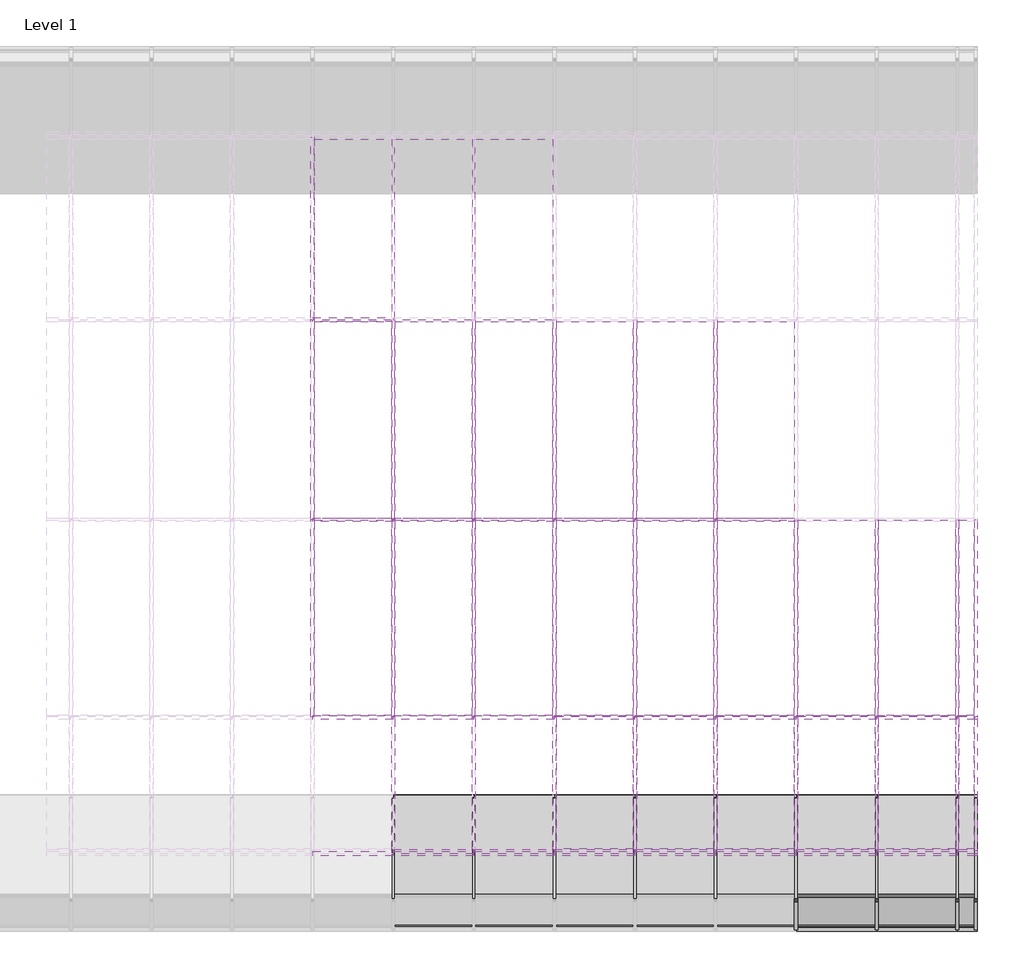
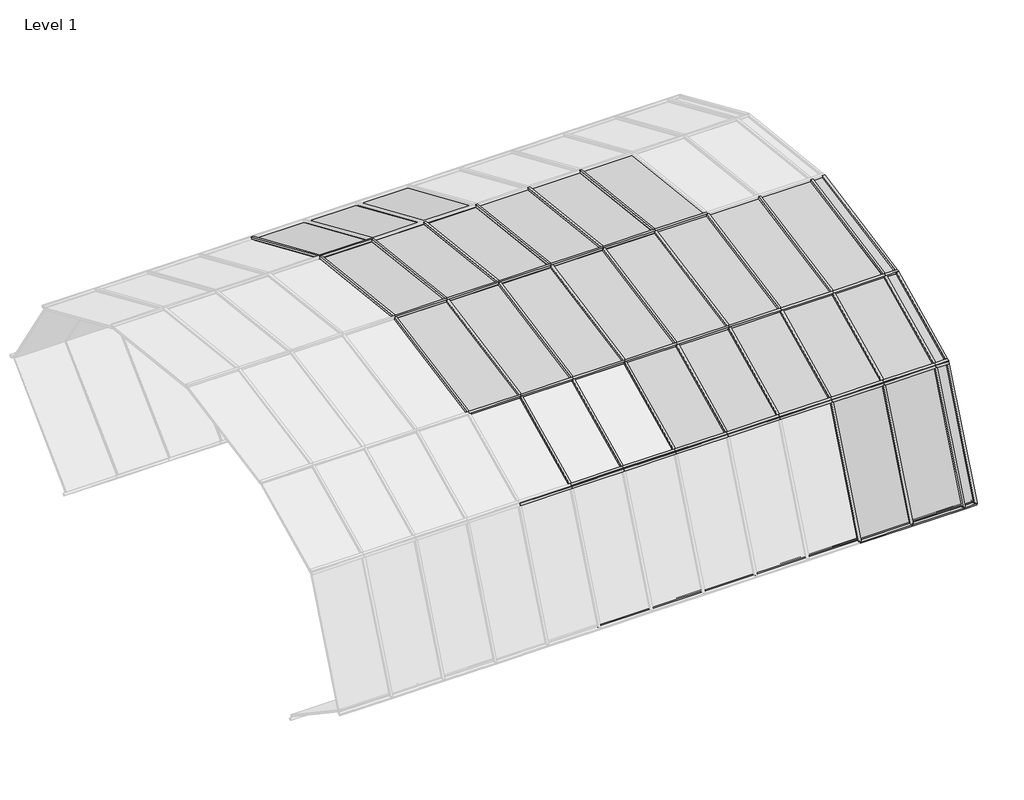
# One storey, part 21 of 23: 83 members, 35 plates.
"""IFC4 building model written with IfcOpenShell, lengths in millimetres."""

from ifc_helpers import new_model, si_unit, origin, place, context, project, spatial, transform, mapped, element, save
from components import member_68981e21, member_e752087b, member_3e1f1dd8, member_fea202f7, member_0f8f75f6, member_42213d33, member_1ddaab60, member_88d46f17, member_14e241b9, member_67cfadff, member_309acb9e, member_1d69e541, member_934386c6, system_panel_glazed_51f493bd, system_panel_glazed_6e806f8e, system_panel_glazed_a1f64e1d, system_panel_glazed_8cafdc8f, system_panel_glazed_3c61d676, system_panel_glazed_a617cdeb, system_panel_glazed_3957fabc, system_panel_glazed_e36701dd

model = new_model("IFC4")

# Units and contexts
model_context = context("Model", 3, world=origin())
ifc_project = project(units=[si_unit("LENGTHUNIT", "METRE", prefix="MILLI")], contexts=[model_context])

# Site, building, storey
site = spatial("IfcSite", under=ifc_project)
building = spatial("IfcBuilding", under=site)
storey = spatial("IfcBuildingStorey", under=building, Name="Level 1", Elevation=0.0)

# Members
placement = place(None, origin())
member_shape = member_68981e21(model_context)
element("IfcMember", 1, ObjectType="Rectangular Mullion : 1\" Square", at=placement, inside=storey, context=model_context, shape_type="MappedRepresentation", body=[
    mapped(member_shape, transform((1059.8500186, 2539.8807303, 0.0), x_axis=(0.0, 0.8307182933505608, -0.5566930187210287), y_axis=(0.0, -0.5566930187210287, -0.8307182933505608), z_axis=(-1.0, 0.0, 0.0))),
])
element("IfcMember", 2, ObjectType="Rectangular Mullion : 1\" Square", at=placement, inside=storey, context=model_context, shape_type="MappedRepresentation", body=[
    mapped(member_shape, transform((1669.4500186, 2539.8807303, 0.0), x_axis=(0.0, 0.8307182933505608, -0.5566930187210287), y_axis=(0.0, -0.5566930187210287, -0.8307182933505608), z_axis=(-1.0, 0.0, 0.0))),
])
element("IfcMember", 3, ObjectType="Rectangular Mullion : 1\" Square", at=placement, inside=storey, context=model_context, shape_type="MappedRepresentation", body=[
    mapped(member_shape, transform((2279.0500186, 2539.8807303, 0.0), x_axis=(0.0, 0.8307182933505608, -0.5566930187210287), y_axis=(0.0, -0.5566930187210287, -0.8307182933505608), z_axis=(-1.0, 0.0, 0.0))),
])
element("IfcMember", 4, ObjectType="Rectangular Mullion : 1\" Square", at=placement, inside=storey, context=model_context, shape_type="MappedRepresentation", body=[
    mapped(member_shape, transform((2888.6500186, 2539.8807303, 0.0), x_axis=(0.0, 0.8307182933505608, -0.5566930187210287), y_axis=(0.0, -0.5566930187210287, -0.8307182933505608), z_axis=(-1.0, 0.0, 0.0))),
])
element("IfcMember", 5, ObjectType="Rectangular Mullion : 1\" Square", at=placement, inside=storey, context=model_context, shape_type="MappedRepresentation", body=[
    mapped(member_shape, transform((3498.2500186, 2539.8807303, 0.0), x_axis=(0.0, 0.8307182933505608, -0.5566930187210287), y_axis=(0.0, -0.5566930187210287, -0.8307182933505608), z_axis=(-1.0, 0.0, 0.0))),
])
element("IfcMember", 6, ObjectType="Rectangular Mullion : 1\" Square", at=placement, inside=storey, context=model_context, shape_type="MappedRepresentation", body=[
    mapped(member_shape, transform((4107.8500186, 2539.8807303, 0.0), x_axis=(0.0, 0.8307182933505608, -0.5566930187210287), y_axis=(0.0, -0.5566930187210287, -0.8307182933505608), z_axis=(-1.0, 0.0, 0.0))),
])
element("IfcMember", 7, ObjectType="Rectangular Mullion : 1\" Square", at=placement, inside=storey, context=model_context, shape_type="MappedRepresentation", body=[
    mapped(member_shape, transform((4717.4500186, 2539.8807303, 0.0), x_axis=(0.0, 0.8307182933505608, -0.5566930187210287), y_axis=(0.0, -0.5566930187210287, -0.8307182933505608), z_axis=(-1.0, 0.0, 0.0))),
])
element("IfcMember", 8, ObjectType="Rectangular Mullion : 1\" Square", at=placement, inside=storey, context=model_context, shape_type="MappedRepresentation", body=[
    mapped(member_shape, transform((1059.8500186, 2108.5088854, 2085.6089632), x_axis=(0.0, -0.9009025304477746, -0.4340214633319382), y_axis=(0.0, -0.4340214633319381, 0.9009025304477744), z_axis=(-1.0, 0.0, 0.0))),
])
element("IfcMember", 9, ObjectType="Rectangular Mullion : 1\" Square", at=placement, inside=storey, context=model_context, shape_type="MappedRepresentation", body=[
    mapped(member_shape, transform((1669.4500186, 2108.5088854, 2085.6089632), x_axis=(0.0, -0.9009025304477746, -0.4340214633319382), y_axis=(0.0, -0.4340214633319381, 0.9009025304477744), z_axis=(-1.0, 0.0, 0.0))),
])
element("IfcMember", 10, ObjectType="Rectangular Mullion : 1\" Square", at=placement, inside=storey, context=model_context, shape_type="MappedRepresentation", body=[
    mapped(member_shape, transform((2279.0500186, 2108.5088854, 2085.6089632), x_axis=(0.0, -0.9009025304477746, -0.4340214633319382), y_axis=(0.0, -0.4340214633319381, 0.9009025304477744), z_axis=(-1.0, 0.0, 0.0))),
])
element("IfcMember", 11, ObjectType="Rectangular Mullion : 1\" Square", at=placement, inside=storey, context=model_context, shape_type="MappedRepresentation", body=[
    mapped(member_shape, transform((2888.6500186, 2108.5088854, 2085.6089632), x_axis=(0.0, -0.9009025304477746, -0.4340214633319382), y_axis=(0.0, -0.4340214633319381, 0.9009025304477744), z_axis=(-1.0, 0.0, 0.0))),
])
element("IfcMember", 12, ObjectType="Rectangular Mullion : 1\" Square", at=placement, inside=storey, context=model_context, shape_type="MappedRepresentation", body=[
    mapped(member_shape, transform((3498.2500186, 2108.5088854, 2085.6089632), x_axis=(0.0, -0.9009025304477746, -0.4340214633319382), y_axis=(0.0, -0.4340214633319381, 0.9009025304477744), z_axis=(-1.0, 0.0, 0.0))),
])
element("IfcMember", 13, ObjectType="Rectangular Mullion : 1\" Square", at=placement, inside=storey, context=model_context, shape_type="MappedRepresentation", body=[
    mapped(member_shape, transform((4107.8500186, 2108.5088854, 2085.6089632), x_axis=(0.0, -0.9009025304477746, -0.4340214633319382), y_axis=(0.0, -0.4340214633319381, 0.9009025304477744), z_axis=(-1.0, 0.0, 0.0))),
])
element("IfcMember", 14, ObjectType="Rectangular Mullion : 1\" Square", at=placement, inside=storey, context=model_context, shape_type="MappedRepresentation", body=[
    mapped(member_shape, transform((4717.4500186, 2108.5088854, 2085.6089632), x_axis=(0.0, -0.9009025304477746, -0.4340214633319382), y_axis=(0.0, -0.4340214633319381, 0.9009025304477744), z_axis=(-1.0, 0.0, 0.0))),
])
member_2_shape = member_e752087b(model_context)
element("IfcMember", 15, ObjectType="Rectangular Mullion : 1\" Square", at=placement, inside=storey, context=model_context, shape_type="MappedRepresentation", body=[
    mapped(member_2_shape, transform((5327.0500186, 2539.8807303, 0.0), x_axis=(0.0, 0.8307182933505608, -0.5566930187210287), y_axis=(0.0, -0.5566930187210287, -0.8307182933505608), z_axis=(-1.0, 0.0, 0.0))),
])
element("IfcMember", 16, ObjectType="Rectangular Mullion : 1\" Square", at=placement, inside=storey, context=model_context, shape_type="MappedRepresentation", body=[
    mapped(member_2_shape, transform((5327.0500186, 2108.5088854, 2085.6089632), x_axis=(0.0, -0.9009025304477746, -0.4340214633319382), y_axis=(0.0, -0.4340214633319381, 0.9009025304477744), z_axis=(-1.0, 0.0, 0.0))),
])
member_3_shape = member_3e1f1dd8(model_context)
element("IfcMember", 17, ObjectType="Rectangular Mullion : 1\" Square", at=placement, inside=storey, context=model_context, shape_type="MappedRepresentation", body=[
    mapped(member_3_shape, transform((4107.8500186, 1534.1192339, 673.9955146), x_axis=(0.0, 0.38018576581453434, -0.9249101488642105), y_axis=(0.0, -0.9249101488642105, -0.38018576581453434), z_axis=(-1.0, 0.0, 0.0))),
])
element("IfcMember", 18, ObjectType="Rectangular Mullion : 1\" Square", at=placement, inside=storey, context=model_context, shape_type="MappedRepresentation", body=[
    mapped(member_3_shape, transform((4717.4500186, 1534.1192339, 673.9955146), x_axis=(0.0, 0.38018576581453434, -0.9249101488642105), y_axis=(0.0, -0.9249101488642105, -0.38018576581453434), z_axis=(-1.0, 0.0, 0.0))),
])
element("IfcMember", 19, ObjectType="Rectangular Mullion : 1\" Square", at=placement, inside=storey, context=model_context, shape_type="MappedRepresentation", body=[
    mapped(member_3_shape, transform((450.2500186, 4631.6132499, 2864.1651971), x_axis=(0.0, -0.9992773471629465, -0.038010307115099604), y_axis=(0.0, -0.038010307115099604, 0.9992773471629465), z_axis=(-1.0, 0.0, 0.0))),
])
element("IfcMember", 20, ObjectType="Rectangular Mullion : 1\" Square", at=placement, inside=storey, context=model_context, shape_type="MappedRepresentation", body=[
    mapped(member_3_shape, transform((1059.8500186, 4631.6132499, 2864.1651971), x_axis=(0.0, -0.9992773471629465, -0.038010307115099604), y_axis=(0.0, -0.038010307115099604, 0.9992773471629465), z_axis=(-1.0, 0.0, 0.0))),
])
element("IfcMember", 21, ObjectType="Rectangular Mullion : 1\" Square", at=placement, inside=storey, context=model_context, shape_type="MappedRepresentation", body=[
    mapped(member_3_shape, transform((1669.4500186, 4631.6132499, 2864.1651971), x_axis=(0.0, -0.9992773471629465, -0.038010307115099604), y_axis=(0.0, -0.038010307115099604, 0.9992773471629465), z_axis=(-1.0, 0.0, 0.0))),
])
element("IfcMember", 22, ObjectType="Rectangular Mullion : 1\" Square", at=placement, inside=storey, context=model_context, shape_type="MappedRepresentation", body=[
    mapped(member_3_shape, transform((2279.0500186, 4631.6132499, 2864.1651971), x_axis=(0.0, -0.9992773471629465, -0.038010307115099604), y_axis=(0.0, -0.038010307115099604, 0.9992773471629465), z_axis=(-1.0, 0.0, 0.0))),
])
element("IfcMember", 23, ObjectType="Rectangular Mullion : 1\" Square", at=placement, inside=storey, context=model_context, shape_type="MappedRepresentation", body=[
    mapped(member_3_shape, transform((2888.6500186, 4631.6132499, 2864.1651971), x_axis=(0.0, -0.9992773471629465, -0.038010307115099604), y_axis=(0.0, -0.038010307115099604, 0.9992773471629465), z_axis=(-1.0, 0.0, 0.0))),
])
element("IfcMember", 24, ObjectType="Rectangular Mullion : 1\" Square", at=placement, inside=storey, context=model_context, shape_type="MappedRepresentation", body=[
    mapped(member_3_shape, transform((3498.2500186, 4631.6132499, 2864.1651971), x_axis=(0.0, -0.9992773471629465, -0.038010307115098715), y_axis=(0.0, -0.038010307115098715, 0.9992773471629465), z_axis=(-1.0, 0.0, 0.0))),
])
element("IfcMember", 25, ObjectType="Rectangular Mullion : 1\" Square", at=placement, inside=storey, context=model_context, shape_type="MappedRepresentation", body=[
    mapped(member_3_shape, transform((450.2500186, 3134.3722562, 2579.8319299), x_axis=(0.0, -0.9436447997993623, -0.3309599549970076), y_axis=(0.0, -0.3309599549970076, 0.9436447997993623), z_axis=(-1.0, 0.0, 0.0))),
])
element("IfcMember", 26, ObjectType="Rectangular Mullion : 1\" Square", at=placement, inside=storey, context=model_context, shape_type="MappedRepresentation", body=[
    mapped(member_3_shape, transform((1059.8500186, 3134.3722562, 2579.8319299), x_axis=(0.0, -0.9436447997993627, -0.33095995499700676), y_axis=(0.0, -0.33095995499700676, 0.9436447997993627), z_axis=(-1.0, 0.0, 0.0))),
])
element("IfcMember", 27, ObjectType="Rectangular Mullion : 1\" Square", at=placement, inside=storey, context=model_context, shape_type="MappedRepresentation", body=[
    mapped(member_3_shape, transform((1669.4500186, 3134.3722562, 2579.8319299), x_axis=(0.0, -0.9436447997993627, -0.33095995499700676), y_axis=(0.0, -0.33095995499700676, 0.9436447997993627), z_axis=(-1.0, 0.0, 0.0))),
])
element("IfcMember", 28, ObjectType="Rectangular Mullion : 1\" Square", at=placement, inside=storey, context=model_context, shape_type="MappedRepresentation", body=[
    mapped(member_3_shape, transform((2279.0500186, 3134.3722562, 2579.8319299), x_axis=(0.0, -0.9436447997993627, -0.33095995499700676), y_axis=(0.0, -0.33095995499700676, 0.9436447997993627), z_axis=(-1.0, 0.0, 0.0))),
])
element("IfcMember", 29, ObjectType="Rectangular Mullion : 1\" Square", at=placement, inside=storey, context=model_context, shape_type="MappedRepresentation", body=[
    mapped(member_3_shape, transform((2888.6500186, 3134.3722562, 2579.8319299), x_axis=(0.0, -0.9436447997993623, -0.3309599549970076), y_axis=(0.0, -0.3309599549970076, 0.9436447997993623), z_axis=(-1.0, 0.0, 0.0))),
])
element("IfcMember", 30, ObjectType="Rectangular Mullion : 1\" Square", at=placement, inside=storey, context=model_context, shape_type="MappedRepresentation", body=[
    mapped(member_3_shape, transform((3498.2500186, 3134.3722562, 2579.8319299), x_axis=(0.0, -0.9436447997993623, -0.3309599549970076), y_axis=(0.0, -0.3309599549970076, 0.9436447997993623), z_axis=(-1.0, 0.0, 0.0))),
])
element("IfcMember", 31, ObjectType="Rectangular Mullion : 1\" Square", at=placement, inside=storey, context=model_context, shape_type="MappedRepresentation", body=[
    mapped(member_3_shape, transform((4107.8500186, 3134.3722562, 2579.8319299), x_axis=(0.0, -0.9436447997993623, -0.3309599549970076), y_axis=(0.0, -0.3309599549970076, 0.9436447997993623), z_axis=(-1.0, 0.0, 0.0))),
])
element("IfcMember", 32, ObjectType="Rectangular Mullion : 1\" Square", at=placement, inside=storey, context=model_context, shape_type="MappedRepresentation", body=[
    mapped(member_3_shape, transform((4717.4500186, 3134.3722562, 2579.8319299), x_axis=(0.0, -0.9436447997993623, -0.3309599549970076), y_axis=(0.0, -0.3309599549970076, 0.9436447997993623), z_axis=(-1.0, 0.0, 0.0))),
])
member_4_shape = member_fea202f7(model_context)
element("IfcMember", 33, ObjectType="Rectangular Mullion : 1\" Square", at=placement, inside=storey, context=model_context, shape_type="MappedRepresentation", body=[
    mapped(member_4_shape, transform((5327.0500186, 1534.1192339, 673.9955146), x_axis=(0.0, 0.38018576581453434, -0.9249101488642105), y_axis=(0.0, -0.9249101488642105, -0.38018576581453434), z_axis=(-1.0, 0.0, 0.0))),
])
element("IfcMember", 34, ObjectType="Rectangular Mullion : 1\" Square", at=placement, inside=storey, context=model_context, shape_type="MappedRepresentation", body=[
    mapped(member_4_shape, transform((5327.0500186, 3134.3722562, 2579.8319299), x_axis=(0.0, -0.9436447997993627, -0.33095995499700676), y_axis=(0.0, -0.33095995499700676, 0.9436447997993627), z_axis=(-1.0, 0.0, 0.0))),
])
element("IfcMember", 35, ObjectType="Rectangular Mullion : 1\" Square", at=placement, inside=storey, context=model_context, shape_type="MappedRepresentation", body=[
    mapped(member_2_shape, transform((5479.4500186, 2108.5088854, 2085.6089632), x_axis=(0.0, 0.37689609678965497, 0.9262555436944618), y_axis=(0.0, -0.9262555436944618, 0.37689609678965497), z_axis=(1.0, 0.0, 0.0))),
])
element("IfcMember", 36, ObjectType="Rectangular Mullion : 1\" Square", at=placement, inside=storey, context=model_context, shape_type="MappedRepresentation", body=[
    mapped(member_shape, transform((1059.8500186, 2108.5088854, 2085.6089632), x_axis=(0.0, 0.37689609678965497, 0.9262555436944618), y_axis=(0.0, -0.9262555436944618, 0.37689609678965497), z_axis=(1.0, 0.0, 0.0))),
])
element("IfcMember", 37, ObjectType="Rectangular Mullion : 1\" Square", at=placement, inside=storey, context=model_context, shape_type="MappedRepresentation", body=[
    mapped(member_shape, transform((1669.4500186, 2108.5088854, 2085.6089632), x_axis=(0.0, 0.37689609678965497, 0.9262555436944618), y_axis=(0.0, -0.9262555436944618, 0.37689609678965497), z_axis=(1.0, 0.0, 0.0))),
])
element("IfcMember", 38, ObjectType="Rectangular Mullion : 1\" Square", at=placement, inside=storey, context=model_context, shape_type="MappedRepresentation", body=[
    mapped(member_shape, transform((2279.0500186, 2108.5088854, 2085.6089632), x_axis=(0.0, 0.37689609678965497, 0.9262555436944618), y_axis=(0.0, -0.9262555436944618, 0.37689609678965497), z_axis=(1.0, 0.0, 0.0))),
])
element("IfcMember", 39, ObjectType="Rectangular Mullion : 1\" Square", at=placement, inside=storey, context=model_context, shape_type="MappedRepresentation", body=[
    mapped(member_shape, transform((2888.6500186, 2108.5088854, 2085.6089632), x_axis=(0.0, 0.37689609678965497, 0.9262555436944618), y_axis=(0.0, -0.9262555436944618, 0.37689609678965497), z_axis=(1.0, 0.0, 0.0))),
])
element("IfcMember", 40, ObjectType="Rectangular Mullion : 1\" Square", at=placement, inside=storey, context=model_context, shape_type="MappedRepresentation", body=[
    mapped(member_shape, transform((3498.2500186, 2108.5088854, 2085.6089632), x_axis=(0.0, 0.37689609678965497, 0.9262555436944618), y_axis=(0.0, -0.9262555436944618, 0.37689609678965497), z_axis=(1.0, 0.0, 0.0))),
])
element("IfcMember", 41, ObjectType="Rectangular Mullion : 1\" Square", at=placement, inside=storey, context=model_context, shape_type="MappedRepresentation", body=[
    mapped(member_shape, transform((4107.8500186, 2108.5088854, 2085.6089632), x_axis=(0.0, 0.37689609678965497, 0.9262555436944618), y_axis=(0.0, -0.9262555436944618, 0.37689609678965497), z_axis=(1.0, 0.0, 0.0))),
])
element("IfcMember", 42, ObjectType="Rectangular Mullion : 1\" Square", at=placement, inside=storey, context=model_context, shape_type="MappedRepresentation", body=[
    mapped(member_shape, transform((4717.4500186, 2108.5088854, 2085.6089632), x_axis=(0.0, 0.37689609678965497, 0.9262555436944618), y_axis=(0.0, -0.9262555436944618, 0.37689609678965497), z_axis=(1.0, 0.0, 0.0))),
])
element("IfcMember", 43, ObjectType="Rectangular Mullion : 1\" Square", at=placement, inside=storey, context=model_context, shape_type="MappedRepresentation", body=[
    mapped(member_shape, transform((5327.0500186, 2108.5088854, 2085.6089632), x_axis=(0.0, 0.37689609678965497, 0.9262555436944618), y_axis=(0.0, -0.9262555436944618, 0.37689609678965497), z_axis=(1.0, 0.0, 0.0))),
])
element("IfcMember", 44, ObjectType="Rectangular Mullion : 1\" Square", at=placement, inside=storey, context=model_context, shape_type="MappedRepresentation", body=[
    mapped(member_3_shape, transform((450.2500186, 6146.1274349, 2694.3924567), x_axis=(0.0, -0.9660596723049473, 0.25831900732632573), y_axis=(0.0, 0.2583190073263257, 0.966059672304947), z_axis=(-1.0, 0.0, 0.0))),
])
member_5_shape = member_0f8f75f6(model_context)
element("IfcMember", 45, ObjectType="Rectangular Mullion : 1\" Square", at=placement, inside=storey, context=model_context, shape_type="MappedRepresentation", body=[
    mapped(member_5_shape, transform((1059.8500186, 2518.7804857, 14.1400027), x_axis=(1.0, 0.0, 0.0), y_axis=(0.0, -0.5566930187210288, -0.8307182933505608), z_axis=(0.0, 0.8307182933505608, -0.5566930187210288))),
])
element("IfcMember", 46, ObjectType="Rectangular Mullion : 1\" Square", at=placement, inside=storey, context=model_context, shape_type="MappedRepresentation", body=[
    mapped(member_5_shape, transform((1669.4500186, 2518.7804857, 14.1400027), x_axis=(1.0, 0.0, 0.0), y_axis=(0.0, -0.5566930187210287, -0.8307182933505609), z_axis=(0.0, 0.8307182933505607, -0.5566930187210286))),
])
element("IfcMember", 47, ObjectType="Rectangular Mullion : 1\" Square", at=placement, inside=storey, context=model_context, shape_type="MappedRepresentation", body=[
    mapped(member_5_shape, transform((2279.0500186, 2518.7804857, 14.1400027), x_axis=(1.0, 0.0, 0.0), y_axis=(0.0, -0.5566930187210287, -0.8307182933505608), z_axis=(0.0, 0.8307182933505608, -0.5566930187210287))),
])
element("IfcMember", 48, ObjectType="Rectangular Mullion : 1\" Square", at=placement, inside=storey, context=model_context, shape_type="MappedRepresentation", body=[
    mapped(member_5_shape, transform((2888.6500186, 2518.7804857, 14.1400027), x_axis=(1.0, 0.0, 0.0), y_axis=(0.0, -0.5566930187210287, -0.8307182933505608), z_axis=(0.0, 0.8307182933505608, -0.5566930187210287))),
])
element("IfcMember", 49, ObjectType="Rectangular Mullion : 1\" Square", at=placement, inside=storey, context=model_context, shape_type="MappedRepresentation", body=[
    mapped(member_5_shape, transform((3498.2500186, 2518.7804857, 14.1400027), x_axis=(1.0, 0.0, 0.0), y_axis=(0.0, -0.5566930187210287, -0.8307182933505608), z_axis=(0.0, 0.8307182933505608, -0.5566930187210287))),
])
element("IfcMember", 50, ObjectType="Rectangular Mullion : 1\" Square", at=placement, inside=storey, context=model_context, shape_type="MappedRepresentation", body=[
    mapped(member_5_shape, transform((4107.8500186, 2518.7804857, 14.1400027), x_axis=(1.0, 0.0, 0.0), y_axis=(0.0, -0.5566930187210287, -0.8307182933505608), z_axis=(0.0, 0.8307182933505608, -0.5566930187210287))),
])
element("IfcMember", 51, ObjectType="Rectangular Mullion : 1\" Square", at=placement, inside=storey, context=model_context, shape_type="MappedRepresentation", body=[
    mapped(member_5_shape, transform((4717.4500186, 2518.7804857, 14.1400027), x_axis=(1.0, 0.0, 0.0), y_axis=(0.0, -0.5566930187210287, -0.8307182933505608), z_axis=(0.0, 0.8307182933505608, -0.5566930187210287))),
])
member_6_shape = member_42213d33(model_context)
element("IfcMember", 52, ObjectType="Rectangular Mullion : 1\" Square", at=placement, inside=storey, context=model_context, shape_type="MappedRepresentation", body=[
    mapped(member_6_shape, transform((4107.8500186, 1538.9058143, 685.75896), x_axis=(1.0, 0.0, 0.0), y_axis=(0.0, -0.9262555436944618, 0.37689609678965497), z_axis=(0.0, -0.37689609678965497, -0.9262555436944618))),
])
element("IfcMember", 53, ObjectType="Rectangular Mullion : 1\" Square", at=placement, inside=storey, context=model_context, shape_type="MappedRepresentation", body=[
    mapped(member_6_shape, transform((4717.4500186, 1538.9058143, 685.75896), x_axis=(1.0, 0.0, 0.0), y_axis=(0.0, -0.9262555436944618, 0.37689609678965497), z_axis=(0.0, -0.37689609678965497, -0.9262555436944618))),
])
member_7_shape = member_1ddaab60(model_context)
element("IfcMember", 54, ObjectType="Rectangular Mullion : 1\" Square", at=placement, inside=storey, context=model_context, shape_type="MappedRepresentation", body=[
    mapped(member_7_shape, transform((5479.4500186, 2518.7804857, 14.1400027), x_axis=(1.0, 0.0, 0.0), y_axis=(0.0, -0.5566930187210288, -0.8307182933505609), z_axis=(0.0, 0.8307182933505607, -0.5566930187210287))),
])
element("IfcMember", 55, ObjectType="Rectangular Mullion : 1\" Square", at=placement, inside=storey, context=model_context, shape_type="MappedRepresentation", body=[
    mapped(member_6_shape, transform((5327.0500186, 1538.9058143, 685.75896), x_axis=(1.0, 0.0, 0.0), y_axis=(0.0, -0.9262555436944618, 0.37689609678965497), z_axis=(0.0, -0.37689609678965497, -0.9262555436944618))),
])
element("IfcMember", 56, ObjectType="Rectangular Mullion : 1\" Square", at=placement, inside=storey, context=model_context, shape_type="MappedRepresentation", body=[
    mapped(member_5_shape, transform((5327.0500186, 2518.7804857, 14.1400027), x_axis=(1.0, 0.0, 0.0), y_axis=(0.0, -0.5566930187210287, -0.8307182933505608), z_axis=(0.0, 0.8307182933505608, -0.5566930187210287))),
])
member_8_shape = member_88d46f17(model_context)
element("IfcMember", 57, ObjectType="Rectangular Mullion : 1\" Square", at=placement, inside=storey, context=model_context, shape_type="MappedRepresentation", body=[
    mapped(member_8_shape, transform((5479.4500186, 1538.9058143, 685.75896), x_axis=(1.0, 0.0, 0.0), y_axis=(0.0, -0.9262555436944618, 0.37689609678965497), z_axis=(0.0, -0.37689609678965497, -0.9262555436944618))),
])
member_9_shape = member_14e241b9(model_context)
element("IfcMember", 58, ObjectType="Rectangular Mullion : 1\" Square", at=placement, inside=storey, context=model_context, shape_type="MappedRepresentation", body=[
    mapped(member_9_shape, transform((1059.8500186, 2131.3918096, 2096.6331083), x_axis=(1.0, 0.0, 0.0), y_axis=(0.0, -0.43402146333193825, 0.9009025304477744), z_axis=(0.0, -0.9009025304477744, -0.43402146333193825))),
])
element("IfcMember", 59, ObjectType="Rectangular Mullion : 1\" Square", at=placement, inside=storey, context=model_context, shape_type="MappedRepresentation", body=[
    mapped(member_9_shape, transform((1669.4500186, 2131.3918096, 2096.6331083), x_axis=(1.0, 0.0, 0.0), y_axis=(0.0, -0.43402146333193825, 0.9009025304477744), z_axis=(0.0, -0.9009025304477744, -0.43402146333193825))),
])
element("IfcMember", 60, ObjectType="Rectangular Mullion : 1\" Square", at=placement, inside=storey, context=model_context, shape_type="MappedRepresentation", body=[
    mapped(member_9_shape, transform((2279.0500186, 2131.3918096, 2096.6331083), x_axis=(1.0, 0.0, 0.0), y_axis=(0.0, -0.43402146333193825, 0.9009025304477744), z_axis=(0.0, -0.9009025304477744, -0.43402146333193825))),
])
element("IfcMember", 61, ObjectType="Rectangular Mullion : 1\" Square", at=placement, inside=storey, context=model_context, shape_type="MappedRepresentation", body=[
    mapped(member_9_shape, transform((2888.6500186, 2131.3918096, 2096.6331083), x_axis=(1.0, 0.0, 0.0), y_axis=(0.0, -0.4340214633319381, 0.9009025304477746), z_axis=(0.0, -0.9009025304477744, -0.434021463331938))),
])
element("IfcMember", 62, ObjectType="Rectangular Mullion : 1\" Square", at=placement, inside=storey, context=model_context, shape_type="MappedRepresentation", body=[
    mapped(member_9_shape, transform((3498.2500186, 2131.3918096, 2096.6331083), x_axis=(1.0, 0.0, 0.0), y_axis=(0.0, -0.4340214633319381, 0.9009025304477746), z_axis=(0.0, -0.9009025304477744, -0.434021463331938))),
])
element("IfcMember", 63, ObjectType="Rectangular Mullion : 1\" Square", at=placement, inside=storey, context=model_context, shape_type="MappedRepresentation", body=[
    mapped(member_9_shape, transform((4107.8500186, 2131.3918096, 2096.6331083), x_axis=(1.0, 0.0, 0.0), y_axis=(0.0, -0.4340214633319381, 0.9009025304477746), z_axis=(0.0, -0.9009025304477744, -0.434021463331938))),
])
element("IfcMember", 64, ObjectType="Rectangular Mullion : 1\" Square", at=placement, inside=storey, context=model_context, shape_type="MappedRepresentation", body=[
    mapped(member_9_shape, transform((4717.4500186, 2131.3918096, 2096.6331083), x_axis=(1.0, 0.0, 0.0), y_axis=(0.0, -0.4340214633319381, 0.9009025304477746), z_axis=(0.0, -0.9009025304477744, -0.434021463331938))),
])
member_10_shape = member_67cfadff(model_context)
element("IfcMember", 65, ObjectType="Rectangular Mullion : 1\" Square", at=placement, inside=storey, context=model_context, shape_type="MappedRepresentation", body=[
    mapped(member_10_shape, transform((450.2500186, 6157.7701444, 2689.3192609), x_axis=(0.9999999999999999, 0.0, 0.0), y_axis=(0.0, 0.3994642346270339, 0.9167487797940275), z_axis=(0.0, -0.9167487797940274, 0.39946423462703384))),
])
member_11_shape = member_309acb9e(model_context)
element("IfcMember", 66, ObjectType="Rectangular Mullion : 1\" Square", at=placement, inside=storey, context=model_context, shape_type="MappedRepresentation", body=[
    mapped(member_11_shape, transform((450.2500186, 4644.2342014, 2862.7504243), x_axis=(0.9999999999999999, 0.0, 0.0), y_axis=(0.0, 0.11139943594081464, 0.9937757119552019), z_axis=(0.0, -0.9937757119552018, 0.11139943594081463))),
])
element("IfcMember", 67, ObjectType="Rectangular Mullion : 1\" Square", at=placement, inside=storey, context=model_context, shape_type="MappedRepresentation", body=[
    mapped(member_11_shape, transform((1059.8500186, 4644.2342014, 2862.7504243), x_axis=(1.0, 0.0, 0.0), y_axis=(0.0, 0.11139943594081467, 0.9937757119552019), z_axis=(0.0, -0.9937757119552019, 0.11139943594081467))),
])
element("IfcMember", 68, ObjectType="Rectangular Mullion : 1\" Square", at=placement, inside=storey, context=model_context, shape_type="MappedRepresentation", body=[
    mapped(member_11_shape, transform((1669.4500186, 4644.2342014, 2862.7504243), x_axis=(1.0, 0.0, 0.0), y_axis=(0.0, 0.11139943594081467, 0.9937757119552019), z_axis=(0.0, -0.9937757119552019, 0.11139943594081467))),
])
element("IfcMember", 69, ObjectType="Rectangular Mullion : 1\" Square", at=placement, inside=storey, context=model_context, shape_type="MappedRepresentation", body=[
    mapped(member_11_shape, transform((2279.0500186, 4644.2342014, 2862.7504243), x_axis=(1.0, 0.0, 0.0), y_axis=(0.0, 0.11139943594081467, 0.9937757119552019), z_axis=(0.0, -0.9937757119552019, 0.11139943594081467))),
])
element("IfcMember", 70, ObjectType="Rectangular Mullion : 1\" Square", at=placement, inside=storey, context=model_context, shape_type="MappedRepresentation", body=[
    mapped(member_11_shape, transform((2888.6500186, 4644.2342014, 2862.7504243), x_axis=(1.0, 0.0, 0.0), y_axis=(0.0, 0.11139943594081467, 0.9937757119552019), z_axis=(0.0, -0.9937757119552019, 0.11139943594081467))),
])
element("IfcMember", 71, ObjectType="Rectangular Mullion : 1\" Square", at=placement, inside=storey, context=model_context, shape_type="MappedRepresentation", body=[
    mapped(member_11_shape, transform((3498.2500186, 4644.2342014, 2862.7504243), x_axis=(0.9999999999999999, 0.0, 0.0), y_axis=(0.0, 0.11139943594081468, 0.993775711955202), z_axis=(0.0, -0.9937757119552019, 0.11139943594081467))),
])
element("IfcMember", 72, ObjectType="Rectangular Mullion : 1\" Square", at=placement, inside=storey, context=model_context, shape_type="MappedRepresentation", body=[
    mapped(member_11_shape, transform((450.2500186, 3146.8492645, 2582.2013738), x_axis=(0.9999999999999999, 0.0, 0.0), y_axis=(0.0, -0.18657038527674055, 0.9824415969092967), z_axis=(0.0, -0.9824415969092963, -0.1865703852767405))),
])
element("IfcMember", 73, ObjectType="Rectangular Mullion : 1\" Square", at=placement, inside=storey, context=model_context, shape_type="MappedRepresentation", body=[
    mapped(member_11_shape, transform((1059.8500186, 3146.8492645, 2582.2013738), x_axis=(0.9999999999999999, 0.0, 0.0), y_axis=(0.0, -0.18657038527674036, 0.9824415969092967), z_axis=(0.0, -0.9824415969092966, -0.18657038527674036))),
])
element("IfcMember", 74, ObjectType="Rectangular Mullion : 1\" Square", at=placement, inside=storey, context=model_context, shape_type="MappedRepresentation", body=[
    mapped(member_11_shape, transform((1669.4500186, 3146.8492645, 2582.2013738), x_axis=(0.9999999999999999, 0.0, 0.0), y_axis=(0.0, -0.18657038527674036, 0.9824415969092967), z_axis=(0.0, -0.9824415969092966, -0.18657038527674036))),
])
element("IfcMember", 75, ObjectType="Rectangular Mullion : 1\" Square", at=placement, inside=storey, context=model_context, shape_type="MappedRepresentation", body=[
    mapped(member_11_shape, transform((2279.0500186, 3146.8492645, 2582.2013738), x_axis=(0.9999999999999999, 0.0, 0.0), y_axis=(0.0, -0.18657038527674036, 0.9824415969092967), z_axis=(0.0, -0.9824415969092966, -0.18657038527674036))),
])
element("IfcMember", 76, ObjectType="Rectangular Mullion : 1\" Square", at=placement, inside=storey, context=model_context, shape_type="MappedRepresentation", body=[
    mapped(member_11_shape, transform((2888.6500186, 3146.8492645, 2582.2013738), x_axis=(0.9999999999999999, 0.0, 0.0), y_axis=(0.0, -0.18657038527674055, 0.9824415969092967), z_axis=(0.0, -0.9824415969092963, -0.1865703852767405))),
])
element("IfcMember", 77, ObjectType="Rectangular Mullion : 1\" Square", at=placement, inside=storey, context=model_context, shape_type="MappedRepresentation", body=[
    mapped(member_11_shape, transform((3498.2500186, 3146.8492645, 2582.2013738), x_axis=(0.9999999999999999, 0.0, 0.0), y_axis=(0.0, -0.18657038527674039, 0.9824415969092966), z_axis=(0.0, -0.9824415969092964, -0.18657038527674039))),
])
element("IfcMember", 78, ObjectType="Rectangular Mullion : 1\" Square", at=placement, inside=storey, context=model_context, shape_type="MappedRepresentation", body=[
    mapped(member_11_shape, transform((4107.8500186, 3146.8492645, 2582.2013738), x_axis=(0.9999999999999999, 0.0, 0.0), y_axis=(0.0, -0.1865703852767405, 0.9824415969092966), z_axis=(0.0, -0.9824415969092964, -0.1865703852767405))),
])
element("IfcMember", 79, ObjectType="Rectangular Mullion : 1\" Square", at=placement, inside=storey, context=model_context, shape_type="MappedRepresentation", body=[
    mapped(member_11_shape, transform((4717.4500186, 3146.8492645, 2582.2013738), x_axis=(0.9999999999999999, 0.0, 0.0), y_axis=(0.0, -0.1865703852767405, 0.9824415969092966), z_axis=(0.0, -0.9824415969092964, -0.1865703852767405))),
])
element("IfcMember", 80, ObjectType="Rectangular Mullion : 1\" Square", at=placement, inside=storey, context=model_context, shape_type="MappedRepresentation", body=[
    mapped(member_11_shape, transform((5327.0500186, 3146.8492645, 2582.2013738), x_axis=(1.0, 0.0, 0.0), y_axis=(0.0, -0.18657038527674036, 0.9824415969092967), z_axis=(0.0, -0.9824415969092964, -0.18657038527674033))),
])
element("IfcMember", 81, ObjectType="Rectangular Mullion : 1\" Square", at=placement, inside=storey, context=model_context, shape_type="MappedRepresentation", body=[
    mapped(member_9_shape, transform((5327.0500186, 2131.3918096, 2096.6331083), x_axis=(1.0, 0.0, 0.0), y_axis=(0.0, -0.4340214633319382, 0.9009025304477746), z_axis=(0.0, -0.9009025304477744, -0.4340214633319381))),
])
member_12_shape = member_1d69e541(model_context)
element("IfcMember", 82, ObjectType="Rectangular Mullion : 1\" Square", at=placement, inside=storey, context=model_context, shape_type="MappedRepresentation", body=[
    mapped(member_12_shape, transform((5479.4500186, 3146.8492645, 2582.2013738), x_axis=(1.0, 0.0, 0.0), y_axis=(0.0, -0.18657038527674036, 0.9824415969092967), z_axis=(0.0, -0.9824415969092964, -0.18657038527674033))),
])
member_13_shape = member_934386c6(model_context)
element("IfcMember", 83, ObjectType="Rectangular Mullion : 1\" Square", at=placement, inside=storey, context=model_context, shape_type="MappedRepresentation", body=[
    mapped(member_13_shape, transform((5479.4500186, 2131.3918096, 2096.6331083), x_axis=(1.0, 0.0, 0.0), y_axis=(0.0, -0.4340214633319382, 0.9009025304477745), z_axis=(0.0, -0.9009025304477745, -0.4340214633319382))),
])

# Plates
system_panel_glazed_shape = system_panel_glazed_51f493bd(model_context)
element("IfcPlate", 84, ObjectType="System Panel : Glazed", at=placement, inside=storey, context=model_context, shape_type="MappedRepresentation", body=[
    mapped(system_panel_glazed_shape, transform((462.9500186, 6838.8686503, 2392.5373078), x_axis=(0.0, -0.9167487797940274, 0.39946423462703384), y_axis=(0.0, -0.39946423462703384, -0.9167487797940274), z_axis=(1.0, 0.0, 0.0))),
])
element("IfcPlate", 85, ObjectType="System Panel : Glazed", at=placement, inside=storey, context=model_context, shape_type="MappedRepresentation", body=[
    mapped(system_panel_glazed_shape, transform((1072.5500186, 6838.8686503, 2392.5373078), x_axis=(0.0, -0.9167487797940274, 0.39946423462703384), y_axis=(0.0, -0.39946423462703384, -0.9167487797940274), z_axis=(1.0, 0.0, 0.0))),
])
element("IfcPlate", 86, ObjectType="System Panel : Glazed", at=placement, inside=storey, context=model_context, shape_type="MappedRepresentation", body=[
    mapped(system_panel_glazed_shape, transform((1682.1500186, 6838.8686503, 2392.5373078), x_axis=(0.0, -0.9167487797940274, 0.39946423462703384), y_axis=(0.0, -0.39946423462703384, -0.9167487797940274), z_axis=(1.0, 0.0, 0.0))),
])
element("IfcPlate", 87, ObjectType="System Panel : Glazed", at=placement, inside=storey, context=model_context, shape_type="MappedRepresentation", body=[
    mapped(system_panel_glazed_shape, transform((4120.5500186, 1818.9207694, 1373.9205162), x_axis=(0.0, -0.37689609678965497, -0.9262555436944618), y_axis=(0.0, 0.9262555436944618, -0.37689609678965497), z_axis=(1.0, 0.0, 0.0))),
])
element("IfcPlate", 88, ObjectType="System Panel : Glazed", at=placement, inside=storey, context=model_context, shape_type="MappedRepresentation", body=[
    mapped(system_panel_glazed_shape, transform((4730.1500186, 1818.9207694, 1373.9205162), x_axis=(0.0, -0.37689609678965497, -0.9262555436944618), y_axis=(0.0, 0.9262555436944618, -0.37689609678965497), z_axis=(1.0, 0.0, 0.0))),
])
system_panel_glazed_2_shape = system_panel_glazed_6e806f8e(model_context)
element("IfcPlate", 89, ObjectType="System Panel : Glazed", at=placement, inside=storey, context=model_context, shape_type="MappedRepresentation", body=[
    mapped(system_panel_glazed_2_shape, transform((462.9500186, 5388.8703424, 2779.2788269), x_axis=(0.0, -0.993775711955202, 0.11139943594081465), y_axis=(0.0, -0.11139943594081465, -0.993775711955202), z_axis=(1.0, 0.0, 0.0))),
])
element("IfcPlate", 90, ObjectType="System Panel : Glazed", at=placement, inside=storey, context=model_context, shape_type="MappedRepresentation", body=[
    mapped(system_panel_glazed_2_shape, transform((462.9500186, 3882.992753, 2721.9985635), x_axis=(0.0, -0.9824415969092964, -0.18657038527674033), y_axis=(0.0, 0.18657038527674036, -0.9824415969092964), z_axis=(1.0, 0.0, 0.0))),
])
element("IfcPlate", 91, ObjectType="System Panel : Glazed", at=placement, inside=storey, context=model_context, shape_type="MappedRepresentation", body=[
    mapped(system_panel_glazed_2_shape, transform((1072.5500186, 5388.8703424, 2779.2788269), x_axis=(0.0, -0.993775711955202, 0.11139943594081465), y_axis=(0.0, -0.11139943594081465, -0.993775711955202), z_axis=(1.0, 0.0, 0.0))),
])
element("IfcPlate", 92, ObjectType="System Panel : Glazed", at=placement, inside=storey, context=model_context, shape_type="MappedRepresentation", body=[
    mapped(system_panel_glazed_2_shape, transform((1072.5500186, 3882.992753, 2721.9985635), x_axis=(0.0, -0.9824415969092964, -0.18657038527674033), y_axis=(0.0, 0.18657038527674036, -0.9824415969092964), z_axis=(1.0, 0.0, 0.0))),
])
element("IfcPlate", 93, ObjectType="System Panel : Glazed", at=placement, inside=storey, context=model_context, shape_type="MappedRepresentation", body=[
    mapped(system_panel_glazed_2_shape, transform((1682.1500186, 5388.8703424, 2779.2788269), x_axis=(0.0, -0.993775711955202, 0.11139943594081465), y_axis=(0.0, -0.11139943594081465, -0.993775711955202), z_axis=(1.0, 0.0, 0.0))),
])
element("IfcPlate", 94, ObjectType="System Panel : Glazed", at=placement, inside=storey, context=model_context, shape_type="MappedRepresentation", body=[
    mapped(system_panel_glazed_2_shape, transform((1682.1500186, 3882.992753, 2721.9985635), x_axis=(0.0, -0.9824415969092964, -0.18657038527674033), y_axis=(0.0, 0.18657038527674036, -0.9824415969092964), z_axis=(1.0, 0.0, 0.0))),
])
element("IfcPlate", 95, ObjectType="System Panel : Glazed", at=placement, inside=storey, context=model_context, shape_type="MappedRepresentation", body=[
    mapped(system_panel_glazed_2_shape, transform((2291.7500186, 5388.8703424, 2779.2788269), x_axis=(0.0, -0.993775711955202, 0.11139943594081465), y_axis=(0.0, -0.11139943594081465, -0.993775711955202), z_axis=(1.0, 0.0, 0.0))),
])
element("IfcPlate", 96, ObjectType="System Panel : Glazed", at=placement, inside=storey, context=model_context, shape_type="MappedRepresentation", body=[
    mapped(system_panel_glazed_2_shape, transform((2291.7500186, 3882.992753, 2721.9985635), x_axis=(0.0, -0.9824415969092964, -0.18657038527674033), y_axis=(0.0, 0.18657038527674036, -0.9824415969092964), z_axis=(1.0, 0.0, 0.0))),
])
element("IfcPlate", 97, ObjectType="System Panel : Glazed", at=placement, inside=storey, context=model_context, shape_type="MappedRepresentation", body=[
    mapped(system_panel_glazed_2_shape, transform((2901.3500186, 5388.8703424, 2779.2788269), x_axis=(0.0, -0.993775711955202, 0.11139943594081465), y_axis=(0.0, -0.11139943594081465, -0.993775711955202), z_axis=(1.0, 0.0, 0.0))),
])
element("IfcPlate", 98, ObjectType="System Panel : Glazed", at=placement, inside=storey, context=model_context, shape_type="MappedRepresentation", body=[
    mapped(system_panel_glazed_2_shape, transform((2901.3500186, 3882.992753, 2721.9985635), x_axis=(0.0, -0.9824415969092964, -0.18657038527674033), y_axis=(0.0, 0.18657038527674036, -0.9824415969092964), z_axis=(1.0, 0.0, 0.0))),
])
element("IfcPlate", 99, ObjectType="System Panel : Glazed", at=placement, inside=storey, context=model_context, shape_type="MappedRepresentation", body=[
    mapped(system_panel_glazed_2_shape, transform((3510.9500186, 5388.8703424, 2779.2788269), x_axis=(0.0, -0.993775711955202, 0.11139943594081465), y_axis=(0.0, -0.11139943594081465, -0.993775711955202), z_axis=(1.0, 0.0, 0.0))),
])
element("IfcPlate", 100, ObjectType="System Panel : Glazed", at=placement, inside=storey, context=model_context, shape_type="MappedRepresentation", body=[
    mapped(system_panel_glazed_2_shape, transform((3510.9500186, 3882.992753, 2721.9985635), x_axis=(0.0, -0.9824415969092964, -0.18657038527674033), y_axis=(0.0, 0.18657038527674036, -0.9824415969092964), z_axis=(1.0, 0.0, 0.0))),
])
element("IfcPlate", 101, ObjectType="System Panel : Glazed", at=placement, inside=storey, context=model_context, shape_type="MappedRepresentation", body=[
    mapped(system_panel_glazed_2_shape, transform((4120.5500186, 3882.992753, 2721.9985635), x_axis=(0.0, -0.9824415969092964, -0.18657038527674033), y_axis=(0.0, 0.18657038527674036, -0.9824415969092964), z_axis=(1.0, 0.0, 0.0))),
])
element("IfcPlate", 102, ObjectType="System Panel : Glazed", at=placement, inside=storey, context=model_context, shape_type="MappedRepresentation", body=[
    mapped(system_panel_glazed_2_shape, transform((4730.1500186, 3882.992753, 2721.9985635), x_axis=(0.0, -0.9824415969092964, -0.18657038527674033), y_axis=(0.0, 0.18657038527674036, -0.9824415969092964), z_axis=(1.0, 0.0, 0.0))),
])
system_panel_glazed_3_shape = system_panel_glazed_a1f64e1d(model_context)
element("IfcPlate", 103, ObjectType="System Panel : Glazed", at=placement, inside=storey, context=model_context, shape_type="MappedRepresentation", body=[
    mapped(system_panel_glazed_3_shape, transform((2291.7500186, 2627.1613018, 2335.4764828), x_axis=(0.0, -0.9009025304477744, -0.4340214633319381), y_axis=(0.0, 0.4340214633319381, -0.9009025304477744), z_axis=(1.0, 0.0, 0.0))),
])
element("IfcPlate", 104, ObjectType="System Panel : Glazed", at=placement, inside=storey, context=model_context, shape_type="MappedRepresentation", body=[
    mapped(system_panel_glazed_3_shape, transform((2901.3500186, 2627.1613018, 2335.4764828), x_axis=(0.0, -0.9009025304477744, -0.4340214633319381), y_axis=(0.0, 0.4340214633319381, -0.9009025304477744), z_axis=(1.0, 0.0, 0.0))),
])
element("IfcPlate", 105, ObjectType="System Panel : Glazed", at=placement, inside=storey, context=model_context, shape_type="MappedRepresentation", body=[
    mapped(system_panel_glazed_3_shape, transform((3510.9500186, 2627.1613018, 2335.4764828), x_axis=(0.0, -0.9009025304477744, -0.4340214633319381), y_axis=(0.0, 0.4340214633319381, -0.9009025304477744), z_axis=(1.0, 0.0, 0.0))),
])
element("IfcPlate", 106, ObjectType="System Panel : Glazed", at=placement, inside=storey, context=model_context, shape_type="MappedRepresentation", body=[
    mapped(system_panel_glazed_3_shape, transform((4120.5500186, 2627.1613018, 2335.4764828), x_axis=(0.0, -0.9009025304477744, -0.4340214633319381), y_axis=(0.0, 0.4340214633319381, -0.9009025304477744), z_axis=(1.0, 0.0, 0.0))),
])
element("IfcPlate", 107, ObjectType="System Panel : Glazed", at=placement, inside=storey, context=model_context, shape_type="MappedRepresentation", body=[
    mapped(system_panel_glazed_3_shape, transform((4730.1500186, 2627.1613018, 2335.4764828), x_axis=(0.0, -0.9009025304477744, -0.4340214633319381), y_axis=(0.0, 0.4340214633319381, -0.9009025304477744), z_axis=(1.0, 0.0, 0.0))),
])
system_panel_glazed_4_shape = system_panel_glazed_8cafdc8f(model_context)
element("IfcPlate", 108, ObjectType="System Panel : Glazed", at=placement, inside=storey, context=model_context, shape_type="MappedRepresentation", body=[
    mapped(system_panel_glazed_4_shape, transform((5339.7500186, 1818.9207694, 1373.9205162), x_axis=(0.0, -0.37689609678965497, -0.9262555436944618), y_axis=(0.0, 0.9262555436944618, -0.37689609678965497), z_axis=(1.0, 0.0, 0.0))),
])
system_panel_glazed_5_shape = system_panel_glazed_3c61d676(model_context)
element("IfcPlate", 109, ObjectType="System Panel : Glazed", at=placement, inside=storey, context=model_context, shape_type="MappedRepresentation", body=[
    mapped(system_panel_glazed_5_shape, transform((5339.7500186, 3882.992753, 2721.9985635), x_axis=(0.0, -0.9824415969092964, -0.18657038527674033), y_axis=(0.0, 0.18657038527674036, -0.9824415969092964), z_axis=(1.0, 0.0, 0.0))),
])
system_panel_glazed_6_shape = system_panel_glazed_a617cdeb(model_context)
element("IfcPlate", 110, ObjectType="System Panel : Glazed", at=placement, inside=storey, context=model_context, shape_type="MappedRepresentation", body=[
    mapped(system_panel_glazed_6_shape, transform((5339.7500186, 2627.1613018, 2335.4764828), x_axis=(0.0, -0.9009025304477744, -0.4340214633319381), y_axis=(0.0, 0.4340214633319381, -0.9009025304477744), z_axis=(1.0, 0.0, 0.0))),
])
system_panel_glazed_7_shape = system_panel_glazed_3957fabc(model_context)
element("IfcPlate", 111, ObjectType="System Panel : Glazed", at=placement, inside=storey, context=model_context, shape_type="MappedRepresentation", body=[
    mapped(system_panel_glazed_7_shape, transform((1072.5500186, 2031.7249209, 340.532758), x_axis=(0.0, 0.8307182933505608, -0.5566930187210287), y_axis=(0.0, 0.5566930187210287, 0.8307182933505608), z_axis=(1.0, 0.0, 0.0))),
])
element("IfcPlate", 112, ObjectType="System Panel : Glazed", at=placement, inside=storey, context=model_context, shape_type="MappedRepresentation", body=[
    mapped(system_panel_glazed_7_shape, transform((1682.1500186, 2031.7249209, 340.532758), x_axis=(0.0, 0.8307182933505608, -0.5566930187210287), y_axis=(0.0, 0.5566930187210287, 0.8307182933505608), z_axis=(1.0, 0.0, 0.0))),
])
element("IfcPlate", 113, ObjectType="System Panel : Glazed", at=placement, inside=storey, context=model_context, shape_type="MappedRepresentation", body=[
    mapped(system_panel_glazed_7_shape, transform((2291.7500186, 2031.7249209, 340.532758), x_axis=(0.0, 0.8307182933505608, -0.5566930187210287), y_axis=(0.0, 0.5566930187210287, 0.8307182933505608), z_axis=(1.0, 0.0, 0.0))),
])
element("IfcPlate", 114, ObjectType="System Panel : Glazed", at=placement, inside=storey, context=model_context, shape_type="MappedRepresentation", body=[
    mapped(system_panel_glazed_7_shape, transform((2901.3500186, 2031.7249209, 340.532758), x_axis=(0.0, 0.8307182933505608, -0.5566930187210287), y_axis=(0.0, 0.5566930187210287, 0.8307182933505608), z_axis=(1.0, 0.0, 0.0))),
])
element("IfcPlate", 115, ObjectType="System Panel : Glazed", at=placement, inside=storey, context=model_context, shape_type="MappedRepresentation", body=[
    mapped(system_panel_glazed_7_shape, transform((3510.9500186, 2031.7249209, 340.532758), x_axis=(0.0, 0.8307182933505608, -0.5566930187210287), y_axis=(0.0, 0.5566930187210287, 0.8307182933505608), z_axis=(1.0, 0.0, 0.0))),
])
element("IfcPlate", 116, ObjectType="System Panel : Glazed", at=placement, inside=storey, context=model_context, shape_type="MappedRepresentation", body=[
    mapped(system_panel_glazed_7_shape, transform((4120.5500186, 2031.7249209, 340.532758), x_axis=(0.0, 0.8307182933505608, -0.5566930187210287), y_axis=(0.0, 0.5566930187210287, 0.8307182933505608), z_axis=(1.0, 0.0, 0.0))),
])
element("IfcPlate", 117, ObjectType="System Panel : Glazed", at=placement, inside=storey, context=model_context, shape_type="MappedRepresentation", body=[
    mapped(system_panel_glazed_7_shape, transform((4730.1500186, 2031.7249209, 340.532758), x_axis=(0.0, 0.8307182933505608, -0.5566930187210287), y_axis=(0.0, 0.5566930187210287, 0.8307182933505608), z_axis=(1.0, 0.0, 0.0))),
])
system_panel_glazed_8_shape = system_panel_glazed_e36701dd(model_context)
element("IfcPlate", 118, ObjectType="System Panel : Glazed", at=placement, inside=storey, context=model_context, shape_type="MappedRepresentation", body=[
    mapped(system_panel_glazed_8_shape, transform((5339.7500186, 2031.7249209, 340.532758), x_axis=(0.0, 0.8307182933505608, -0.5566930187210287), y_axis=(0.0, 0.5566930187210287, 0.8307182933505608), z_axis=(1.0, 0.0, 0.0))),
])

save(model, "model.ifc")
